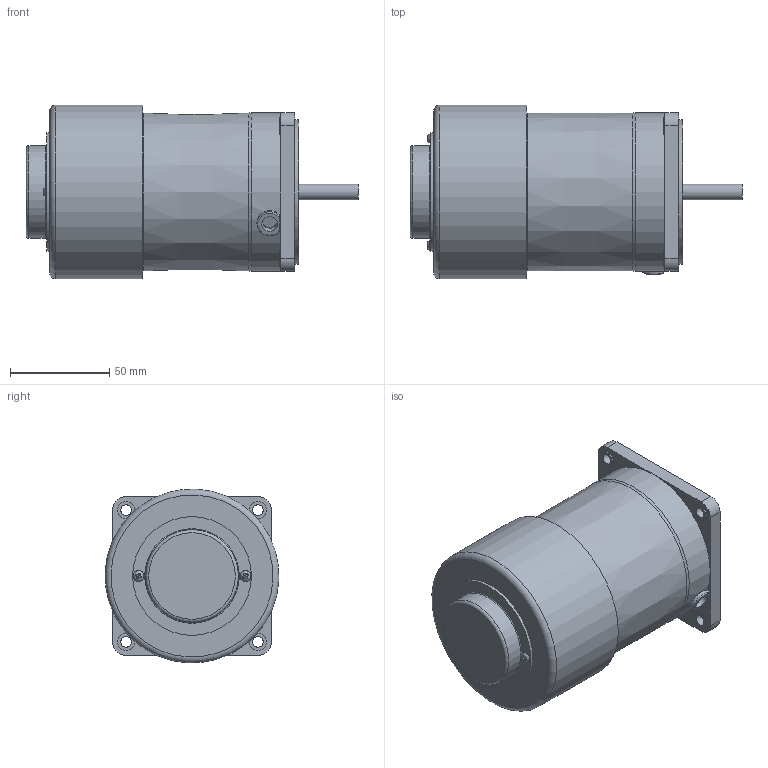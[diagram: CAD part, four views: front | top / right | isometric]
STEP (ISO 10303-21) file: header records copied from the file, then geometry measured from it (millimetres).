
FILE_DESCRIPTION((''),'2;1');
FILE_NAME('D:\STP파일\25W MOTOR\ES TYPE\S8I15S-ES.stp','2013-05-20T16:39:11',('leebh'),(''),'Autodesk Inventor 2011','Autodesk Inventor 2011','');
FILE_SCHEMA(('AUTOMOTIVE_DESIGN { 1 0 10303 214 1 1 1 1 }'));
Length unit declared in the file: millimetre
Products named in the file (1): 부품3
Bounding box: 167.5 x 87.65 x 87.65 mm (x, y, z)
Volume: 693976.6 mm3; surface area: 53694.6 mm2
Topology: 1 solids, 6 shells, 143 faces, 326 edges, 213 vertices
Faces by surface type: plane 86, cylinder 44, torus 10, bspline 2, cone 1
Full cylindrical faces by diameter (mm): 3 x2, 3.5 x2, 5 x1, 5.5 x4, 5.6 x2, 8 x2, 8.5 x4, 34 x1, 44.7 x1, 46.7 x1, 47.7 x1, 59.9 x1, 73 x1, 78 x1, 80 x1, 87.8 x1
Entity records: 4107 total; most frequent: CARTESIAN_POINT 964, DIRECTION 632, ORIENTED_EDGE 560, EDGE_CURVE 280, AXIS2_PLACEMENT_3D 241, EDGE_LOOP 213, VERTEX_POINT 205, VECTOR 150
